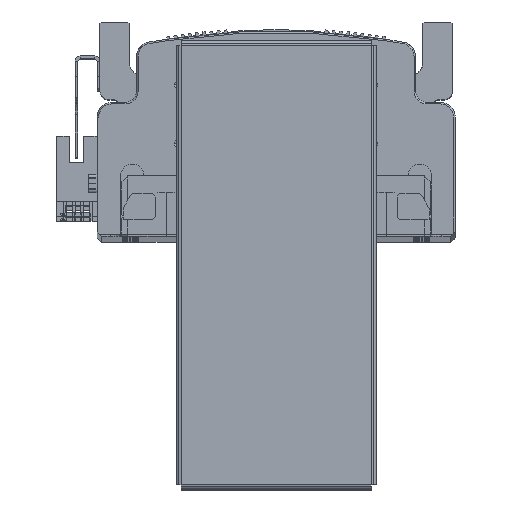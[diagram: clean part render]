
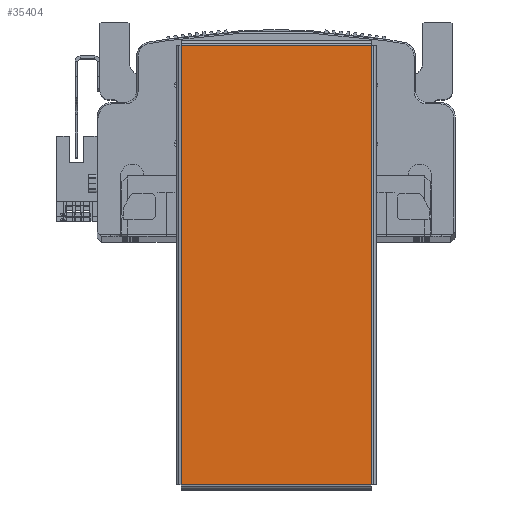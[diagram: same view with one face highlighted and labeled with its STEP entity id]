
A CAD part, top view. The second image highlights one B-rep face of the part: STEP entity #35404.
In plain terms, the highlighted planar face has unit normal (0, 0, 1) as drawn and (0, 0, -1) by its records, which use the part's own axes.
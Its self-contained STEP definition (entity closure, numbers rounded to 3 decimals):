
#19038 = CARTESIAN_POINT ( 'NONE',  ( -74.763, -32.363, -1. ) ) ;
#35404 = ADVANCED_FACE ( 'NONE', ( #61255 ), #60615, .F. ) ;
#44895 = VERTEX_POINT ( 'NONE', #65584 ) ;
#46762 = AXIS2_PLACEMENT_3D ( 'NONE', #60591, #60595, #60601 ) ;
#49326 = EDGE_CURVE ( 'NONE', #98269, #44895, #80285, .T. ) ;
#49359 = EDGE_CURVE ( 'NONE', #67517, #68400, #80327, .T. ) ;
#49458 = EDGE_CURVE ( 'NONE', #68400, #98269, #80387, .T. ) ;
#49510 = EDGE_CURVE ( 'NONE', #44895, #67517, #80418, .T. ) ;
#59078 = EDGE_LOOP ( 'NONE', ( #68383, #68365, #68355, #68364 ) ) ;
#60591 = CARTESIAN_POINT ( 'NONE',  ( 0., 0., -1. ) ) ;
#60595 = DIRECTION ( 'NONE',  ( 0., 0., 1. ) ) ;
#60601 = DIRECTION ( 'NONE',  ( 1., 0., 0. ) ) ;
#60615 = PLANE ( 'NONE',  #46762 ) ;
#61255 = FACE_OUTER_BOUND ( 'NONE', #59078, .T. ) ;
#65584 = CARTESIAN_POINT ( 'NONE',  ( -74.763, 32.363, -1. ) ) ;
#67517 = VERTEX_POINT ( 'NONE', #102875 ) ;
#68355 = ORIENTED_EDGE ( 'NONE', *, *, #49326, .T. ) ;
#68364 = ORIENTED_EDGE ( 'NONE', *, *, #49510, .T. ) ;
#68365 = ORIENTED_EDGE ( 'NONE', *, *, #49458, .T. ) ;
#68383 = ORIENTED_EDGE ( 'NONE', *, *, #49359, .T. ) ;
#68400 = VERTEX_POINT ( 'NONE', #103368 ) ;
#80271 = VECTOR ( 'NONE', #82125, 1000. ) ;
#80285 = LINE ( 'NONE', #82127, #80271 ) ;
#80295 = VECTOR ( 'NONE', #82154, 1000. ) ;
#80327 = LINE ( 'NONE', #82231, #80295 ) ;
#80386 = VECTOR ( 'NONE', #82450, 1000. ) ;
#80387 = LINE ( 'NONE', #82475, #80386 ) ;
#80404 = VECTOR ( 'NONE', #82590, 1000. ) ;
#80418 = LINE ( 'NONE', #82663, #80404 ) ;
#82125 = DIRECTION ( 'NONE',  ( 0., 1., 0. ) ) ;
#82127 = CARTESIAN_POINT ( 'NONE',  ( -74.763, -32.393, -1. ) ) ;
#82154 = DIRECTION ( 'NONE',  ( 0., -1., 0. ) ) ;
#82231 = CARTESIAN_POINT ( 'NONE',  ( 74.763, 32.393, -1. ) ) ;
#82450 = DIRECTION ( 'NONE',  ( -1., 0., 0. ) ) ;
#82475 = CARTESIAN_POINT ( 'NONE',  ( 74.793, -32.363, -1. ) ) ;
#82590 = DIRECTION ( 'NONE',  ( 1., 0., 0. ) ) ;
#82663 = CARTESIAN_POINT ( 'NONE',  ( -74.793, 32.363, -1. ) ) ;
#98269 = VERTEX_POINT ( 'NONE', #19038 ) ;
#102875 = CARTESIAN_POINT ( 'NONE',  ( 74.763, 32.363, -1. ) ) ;
#103368 = CARTESIAN_POINT ( 'NONE',  ( 74.763, -32.363, -1. ) ) ;
